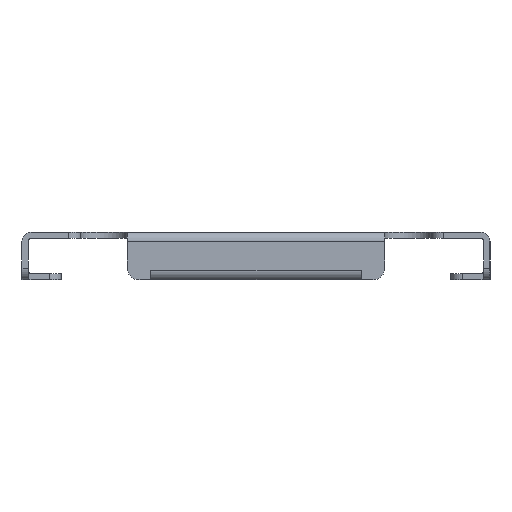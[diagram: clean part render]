
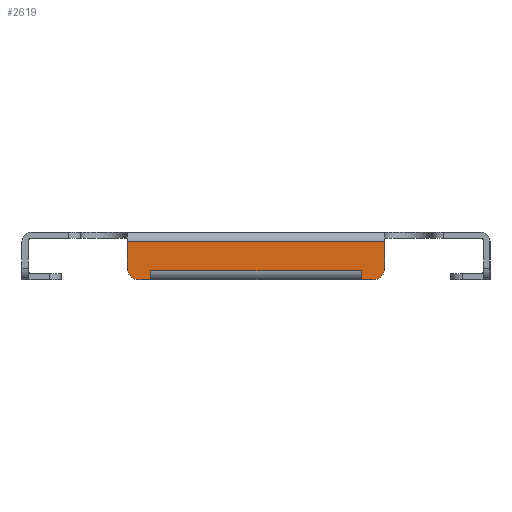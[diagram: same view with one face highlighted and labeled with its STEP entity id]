
A CAD part, left-side view. The second image highlights one B-rep face of the part: STEP entity #2619.
In plain terms, the highlighted planar face has unit normal (-1, 0, 0).
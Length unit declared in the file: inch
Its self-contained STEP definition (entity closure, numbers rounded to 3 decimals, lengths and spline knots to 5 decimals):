
#52=PLANE('',#2815);
#143=FACE_OUTER_BOUND('',#277,.T.);
#277=EDGE_LOOP('',(#1849,#1850,#1851,#1852,#1853,#1854,#1855,#1856,#1857,
#1858,#1859,#1860,#1861,#1862));
#455=LINE('',#3949,#739);
#458=LINE('',#3955,#742);
#459=LINE('',#3957,#743);
#460=LINE('',#3959,#744);
#461=LINE('',#3963,#745);
#462=LINE('',#3965,#746);
#463=LINE('',#3967,#747);
#464=LINE('',#3969,#748);
#465=LINE('',#3971,#749);
#466=LINE('',#3973,#750);
#467=LINE('',#3975,#751);
#468=LINE('',#3976,#752);
#739=VECTOR('',#3168,0.3937);
#742=VECTOR('',#3173,0.3937);
#743=VECTOR('',#3174,0.3937);
#744=VECTOR('',#3175,0.3937);
#745=VECTOR('',#3178,0.3937);
#746=VECTOR('',#3179,0.3937);
#747=VECTOR('',#3180,0.3937);
#748=VECTOR('',#3181,0.3937);
#749=VECTOR('',#3182,0.3937);
#750=VECTOR('',#3183,0.3937);
#751=VECTOR('',#3184,0.3937);
#752=VECTOR('',#3185,0.3937);
#998=CIRCLE('',#2813,0.125);
#999=CIRCLE('',#2816,0.125);
#1135=VERTEX_POINT('',#3942);
#1136=VERTEX_POINT('',#3944);
#1137=VERTEX_POINT('',#3948);
#1139=VERTEX_POINT('',#3954);
#1140=VERTEX_POINT('',#3956);
#1141=VERTEX_POINT('',#3958);
#1142=VERTEX_POINT('',#3960);
#1143=VERTEX_POINT('',#3962);
#1144=VERTEX_POINT('',#3964);
#1145=VERTEX_POINT('',#3966);
#1146=VERTEX_POINT('',#3968);
#1147=VERTEX_POINT('',#3970);
#1148=VERTEX_POINT('',#3972);
#1149=VERTEX_POINT('',#3974);
#1423=EDGE_CURVE('',#1135,#1136,#998,.T.);
#1425=EDGE_CURVE('',#1137,#1136,#455,.T.);
#1428=EDGE_CURVE('',#1135,#1139,#458,.T.);
#1429=EDGE_CURVE('',#1140,#1139,#459,.T.);
#1430=EDGE_CURVE('',#1140,#1141,#460,.T.);
#1431=EDGE_CURVE('',#1142,#1141,#999,.T.);
#1432=EDGE_CURVE('',#1142,#1143,#461,.T.);
#1433=EDGE_CURVE('',#1143,#1144,#462,.T.);
#1434=EDGE_CURVE('',#1144,#1145,#463,.T.);
#1435=EDGE_CURVE('',#1145,#1146,#464,.T.);
#1436=EDGE_CURVE('',#1146,#1147,#465,.T.);
#1437=EDGE_CURVE('',#1147,#1148,#466,.T.);
#1438=EDGE_CURVE('',#1148,#1149,#467,.T.);
#1439=EDGE_CURVE('',#1149,#1137,#468,.T.);
#1849=ORIENTED_EDGE('',*,*,#1423,.F.);
#1850=ORIENTED_EDGE('',*,*,#1428,.T.);
#1851=ORIENTED_EDGE('',*,*,#1429,.F.);
#1852=ORIENTED_EDGE('',*,*,#1430,.T.);
#1853=ORIENTED_EDGE('',*,*,#1431,.F.);
#1854=ORIENTED_EDGE('',*,*,#1432,.T.);
#1855=ORIENTED_EDGE('',*,*,#1433,.T.);
#1856=ORIENTED_EDGE('',*,*,#1434,.T.);
#1857=ORIENTED_EDGE('',*,*,#1435,.T.);
#1858=ORIENTED_EDGE('',*,*,#1436,.T.);
#1859=ORIENTED_EDGE('',*,*,#1437,.T.);
#1860=ORIENTED_EDGE('',*,*,#1438,.T.);
#1861=ORIENTED_EDGE('',*,*,#1439,.T.);
#1862=ORIENTED_EDGE('',*,*,#1425,.T.);
#2619=ADVANCED_FACE('',(#143),#52,.F.);
#2813=AXIS2_PLACEMENT_3D('',#3945,#3163,#3164);
#2815=AXIS2_PLACEMENT_3D('',#3953,#3171,#3172);
#2816=AXIS2_PLACEMENT_3D('',#3961,#3176,#3177);
#3163=DIRECTION('center_axis',(1.,0.,0.));
#3164=DIRECTION('ref_axis',(0.,-0.707,-0.707));
#3168=DIRECTION('',(0.,-1.,0.));
#3171=DIRECTION('center_axis',(1.,0.,0.));
#3172=DIRECTION('ref_axis',(0.,0.,-1.));
#3173=DIRECTION('',(0.,0.,1.));
#3174=DIRECTION('',(0.,-1.,0.));
#3175=DIRECTION('',(0.,0.,-1.));
#3176=DIRECTION('center_axis',(1.,0.,0.));
#3177=DIRECTION('ref_axis',(0.,0.707,-0.707));
#3178=DIRECTION('',(0.,-1.,0.));
#3179=DIRECTION('',(0.,0.,1.));
#3180=DIRECTION('',(0.,-1.,0.));
#3181=DIRECTION('',(0.,0.,-1.));
#3182=DIRECTION('',(0.,-1.,0.));
#3183=DIRECTION('',(0.,0.,1.));
#3184=DIRECTION('',(0.,-1.,0.));
#3185=DIRECTION('',(0.,0.,-1.));
#3942=CARTESIAN_POINT('',(-11.0625,-1.375,-0.319));
#3944=CARTESIAN_POINT('',(-11.0625,-1.25,-0.444));
#3945=CARTESIAN_POINT('Origin',(-11.0625,-1.25,-0.319));
#3948=CARTESIAN_POINT('',(-11.0625,-1.1252,-0.444));
#3949=CARTESIAN_POINT('',(-11.0625,1.375,-0.444));
#3953=CARTESIAN_POINT('Origin',(-11.0625,0.,-0.188));
#3954=CARTESIAN_POINT('',(-11.0625,-1.375,-0.031));
#3955=CARTESIAN_POINT('',(-11.0625,-1.375,-0.444));
#3956=CARTESIAN_POINT('',(-11.0625,1.375,-0.031));
#3957=CARTESIAN_POINT('',(-11.0625,-1.375,-0.031));
#3958=CARTESIAN_POINT('',(-11.0625,1.375,-0.319));
#3959=CARTESIAN_POINT('',(-11.0625,1.375,0.068));
#3960=CARTESIAN_POINT('',(-11.0625,1.25,-0.444));
#3961=CARTESIAN_POINT('Origin',(-11.0625,1.25,-0.319));
#3962=CARTESIAN_POINT('',(-11.0625,1.1252,-0.444));
#3963=CARTESIAN_POINT('',(-11.0625,1.375,-0.444));
#3964=CARTESIAN_POINT('',(-11.0625,1.1252,-0.3448));
#3965=CARTESIAN_POINT('',(-11.0625,1.1252,-0.316));
#3966=CARTESIAN_POINT('',(-11.0625,1.125,-0.3448));
#3967=CARTESIAN_POINT('',(-11.0625,0.5626,-0.3448));
#3968=CARTESIAN_POINT('',(-11.0625,1.125,-0.345));
#3969=CARTESIAN_POINT('',(-11.0625,1.125,-0.2664));
#3970=CARTESIAN_POINT('',(-11.0625,-1.125,-0.345));
#3971=CARTESIAN_POINT('',(-11.0625,-0.5625,-0.345));
#3972=CARTESIAN_POINT('',(-11.0625,-1.125,-0.3448));
#3973=CARTESIAN_POINT('',(-11.0625,-1.125,-0.316));
#3974=CARTESIAN_POINT('',(-11.0625,-1.1252,-0.3448));
#3975=CARTESIAN_POINT('',(-11.0625,-0.5625,-0.3448));
#3976=CARTESIAN_POINT('',(-11.0625,-1.1252,-0.2664));
